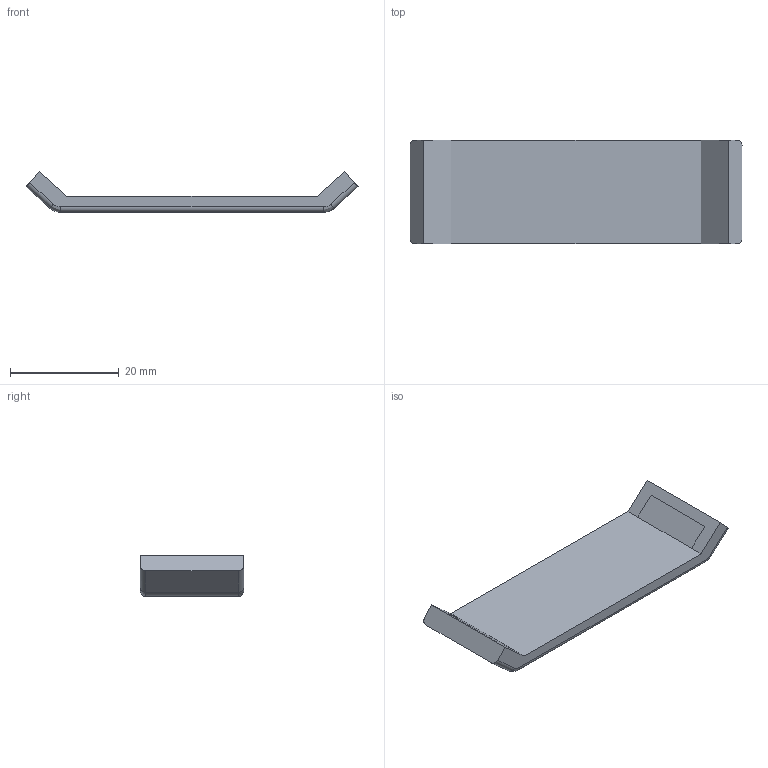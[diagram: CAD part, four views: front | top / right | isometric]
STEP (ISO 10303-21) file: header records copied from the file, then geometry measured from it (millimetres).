
FILE_DESCRIPTION (( 'STEP AP214' ), '1' );
FILE_NAME ('1.1033 Päätysuoja kulmalle 19.STEP', '2025-09-03T09:04:57', ( '' ), ( '' ), 'SwSTEP 2.0', 'SolidWorks 2025', '' );
FILE_SCHEMA (( 'AUTOMOTIVE_DESIGN' ));
Length unit declared in the file: millimetre
Products named in the file (1): 1.1033 Päätysuoja kulmalle 19
Bounding box: 61 x 19 x 7.5 mm (x, y, z)
Volume: 3684.2 mm3; surface area: 2914.7 mm2
Topology: 1 solids, 1 shells, 249 faces, 701 edges, 466 vertices
Faces by surface type: plane 151, bspline 89, cylinder 9
Entity records: 10690 total; most frequent: CARTESIAN_POINT 4860, ORIENTED_EDGE 1402, DIRECTION 847, EDGE_CURVE 701, VECTOR 501, LINE 501, VERTEX_POINT 466, EDGE_LOOP 261
